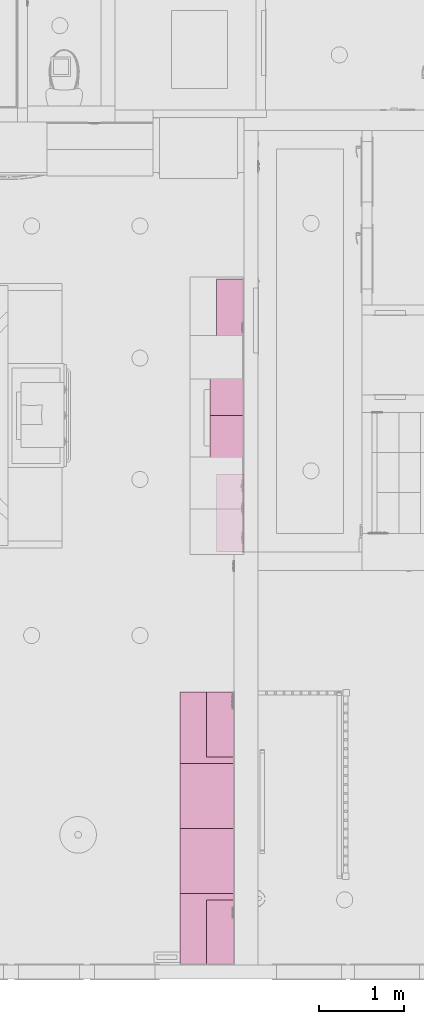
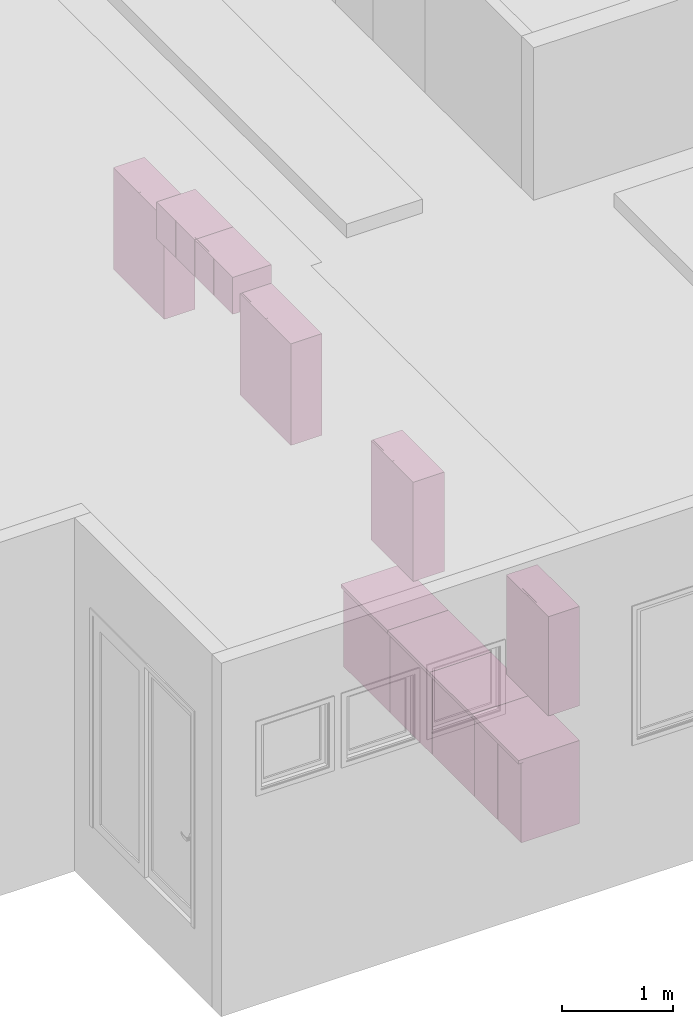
# One storey, part 45 of 103: 10 furnishings.
"""IFC2X3 building model written with IfcOpenShell, lengths in inches."""

import ifcopenshell
import ifcopenshell.guid

model = None  # the IFC model being written
_history = None  # IfcOwnerHistory: only IFC2X3 demands one
_inside = {}  # id of a spatial element -> (the spatial element, [elements in it])
_under = {}  # id of a project, library or spatial element -> (it, [spatial elements below it])
_declared = {}  # id of a project -> (the project, [libraries it declares])
_typed = {}  # id of a type object -> (the type object, [elements of that type])
_made_of = {}  # id of a material, layer set ... -> (it, [elements and type objects made of it])


def new_model(schema):
    """Start an empty IFC model of exactly this schema.

    Asked for "IFC4X3", IfcOpenShell would pick the latest addendum, in which some entities
    have other attributes; the version numbers below select the first issue.
    IFC2X3 requires an IfcOwnerHistory on every rooted entity: one is made here for all.
    """
    global model, _history
    if schema == "IFC4X3":
        model = ifcopenshell.file(schema_version=(4, 3, 0, 0))
    else:
        model = ifcopenshell.file(schema=schema)
    _inside.clear()
    _under.clear()
    _declared.clear()
    _typed.clear()
    _made_of.clear()
    _history = None
    if model.schema == "IFC2X3":
        org = make("IfcOrganization", Name="unknown")
        user = make(
            "IfcPersonAndOrganization",
            ThePerson=make("IfcPerson", FamilyName="unknown"),
            TheOrganization=org,
        )
        app = make(
            "IfcApplication",
            ApplicationDeveloper=org,
            Version="unknown",
            ApplicationFullName="unknown",
            ApplicationIdentifier="unknown",
        )
        _history = make(
            "IfcOwnerHistory",
            OwningUser=user,
            OwningApplication=app,
            ChangeAction="ADDED",
            CreationDate=0,
        )
    return model


def make(cls, **values):
    """One entity of the class cls with the attributes given. An attribute that is None is left unset."""
    return model.create_entity(
        cls, **{name: value for name, value in values.items() if value is not None}
    )


def entity(cls, *values):
    """Any entity or typed value of the class cls, its attributes in the order of the schema. None: left unset."""
    e = model.create_entity(cls)
    for i, value in enumerate(values):
        if value is not None:
            e[i] = value
    return e


def rooted(cls, **values):
    """An entity with a GlobalId (a new one), such as an element, a storey or a relation."""
    return make(cls, GlobalId=ifcopenshell.guid.new(), OwnerHistory=_history, **values)


def si_unit(unit_type, name, prefix=None):
    """IfcSIUnit, for example si_unit("LENGTHUNIT", "METRE", prefix="MILLI")."""
    return make("IfcSIUnit", UnitType=unit_type, Prefix=prefix, Name=name)


def converted_unit(unit_type, name, factor, base, dimensions=None, offset=None):
    """IfcConversionBasedUnit, such as the inch: factor (a typed value) times the base unit."""
    return make(
        "IfcConversionBasedUnit"
        if offset is None
        else "IfcConversionBasedUnitWithOffset",
        ConversionOffset=offset,
        Dimensions=None
        if dimensions is None
        else entity("IfcDimensionalExponents", *dimensions),
        UnitType=unit_type,
        Name=name,
        ConversionFactor=make(
            "IfcMeasureWithUnit", ValueComponent=factor, UnitComponent=base
        ),
    )


def derived_unit(unit_type, elements):
    """IfcDerivedUnit: a product of units, each with its exponent."""
    return make(
        "IfcDerivedUnit",
        Elements=[
            make("IfcDerivedUnitElement", Unit=unit, Exponent=power)
            for unit, power in elements
        ],
        UnitType=unit_type,
    )


def money_unit(currency):
    """IfcMonetaryUnit."""
    return make("IfcMonetaryUnit", Currency=currency)


def assignment(units):
    """IfcUnitAssignment: the units of a project."""
    return None if units is None else make("IfcUnitAssignment", Units=units)


def point(xyz):
    """IfcCartesianPoint."""
    return None if xyz is None else make("IfcCartesianPoint", Coordinates=xyz)


def direction(xyz):
    """IfcDirection."""
    return None if xyz is None else make("IfcDirection", DirectionRatios=xyz)


def frame(location, z_axis=None, x_axis=None):
    """IfcAxis2Placement3D, a coordinate frame: its origin and axes. An axis left out is left unset."""
    return make(
        "IfcAxis2Placement3D",
        Location=point(location),
        Axis=direction(z_axis),
        RefDirection=direction(x_axis),
    )


def origin_with_axes():
    """The frame at (0, 0, 0) with the z axis (0, 0, 1) and the x axis (1, 0, 0) written out."""
    return frame((0.0, 0.0, 0.0), z_axis=(0.0, 0.0, 1.0), x_axis=(1.0, 0.0, 0.0))


def place(relative_to, where):
    """IfcLocalPlacement: puts the frame where relative to a parent placement (None: the world)."""
    return make(
        "IfcLocalPlacement", PlacementRelTo=relative_to, RelativePlacement=where
    )


def context(
    kind, dimensions, precision=None, world=None, true_north=None, identifier=None
):
    """IfcGeometricRepresentationContext, for example the 3D "Model" context."""
    return make(
        "IfcGeometricRepresentationContext",
        ContextIdentifier=identifier,
        ContextType=kind,
        CoordinateSpaceDimension=dimensions,
        Precision=precision,
        WorldCoordinateSystem=world,
        TrueNorth=true_north,
    )


def subcontext(parent, identifier, kind, view, scale=None):
    """IfcGeometricRepresentationSubContext, for example "Body" below "Model"."""
    return make(
        "IfcGeometricRepresentationSubContext",
        ContextIdentifier=identifier,
        ContextType=kind,
        ParentContext=parent,
        TargetScale=scale,
        TargetView=view,
    )


def project(units=None, contexts=None):
    """IfcProject with its units and contexts."""
    return rooted(
        "IfcProject",
        Name="project",
        RepresentationContexts=contexts,
        UnitsInContext=assignment(units),
    )


def spatial(cls, under=None, at=None, **own):
    """A site, building, storey or space (cls), placed at a placement, below another one or the project."""
    s = rooted(cls, ObjectPlacement=at, **own)
    if under is not None:
        _under.setdefault(under.id(), (under, []))[1].append(s)
    return s


def faces_of(points, faces, orient=None, outer=None):
    """IfcFace entities. A face is a list of loops; a loop is a list of indices into points, from 0.

    orient and outer hold one flag for each loop. By default every Orientation is true, the
    first loop of a face is its IfcFaceOuterBound and the others are IfcFaceBound.
    """
    made = []
    for i, loops in enumerate(faces):
        bounds = []
        for j, loop in enumerate(loops):
            is_outer = j == 0 if outer is None else outer[i][j]
            bounds.append(
                make(
                    "IfcFaceOuterBound" if is_outer else "IfcFaceBound",
                    Bound=make("IfcPolyLoop", Polygon=[points[k] for k in loop]),
                    Orientation=True if orient is None else orient[i][j],
                )
            )
        made.append(make("IfcFace", Bounds=bounds))
    return made


def faceted_brep(points, faces, orient=None, outer=None, voids=None):
    """IfcFacetedBrep: a solid bounded by flat faces; with voids (closed shells), ...WithVoids."""
    shared = [point(p) for p in points]
    hull = make("IfcClosedShell", CfsFaces=faces_of(shared, faces, orient, outer))
    if voids is None:
        return make("IfcFacetedBrep", Outer=hull)
    return make(
        "IfcFacetedBrepWithVoids",
        Outer=hull,
        Voids=[
            make(cls, CfsFaces=faces_of(shared, fs, o, b)) for cls, fs, o, b in voids
        ],
    )


def shape(context_of_items, identifier, shape_type, items):
    """IfcShapeRepresentation: the items that make up one representation, for example the "Body"."""
    return make(
        "IfcShapeRepresentation",
        ContextOfItems=context_of_items,
        RepresentationIdentifier=identifier,
        RepresentationType=shape_type,
        Items=items,
    )


def source(mapping_origin, context_of_items, identifier, shape_type, items):
    """IfcRepresentationMap: a shape defined once, which mapped items show again and again."""
    return make(
        "IfcRepresentationMap",
        MappingOrigin=mapping_origin,
        MappedRepresentation=shape(context_of_items, identifier, shape_type, items),
    )


def transform(
    local_origin,
    x_axis=None,
    y_axis=None,
    z_axis=None,
    scale=None,
    scale2=None,
    scale3=None,
    uniform=True,
):
    """IfcCartesianTransformationOperator3D, or its non-uniform kind. x_axis, y_axis, z_axis: its Axis1, 2, 3."""
    if uniform:
        return make(
            "IfcCartesianTransformationOperator3D",
            Axis1=direction(x_axis),
            Axis2=direction(y_axis),
            LocalOrigin=point(local_origin),
            Scale=scale,
            Axis3=direction(z_axis),
        )
    return make(
        "IfcCartesianTransformationOperator3DnonUniform",
        Axis1=direction(x_axis),
        Axis2=direction(y_axis),
        LocalOrigin=point(local_origin),
        Scale=scale,
        Axis3=direction(z_axis),
        Scale2=scale2,
        Scale3=scale3,
    )


def mapped(mapping_source, mapping_target):
    """IfcMappedItem: shows the shape of a source again, moved by a transform."""
    return make(
        "IfcMappedItem", MappingSource=mapping_source, MappingTarget=mapping_target
    )


def made_of(thing, what):
    """Note that an element or type object is made of a material, layer set ...; save() writes the relation."""
    if what is not None:
        _made_of.setdefault(what.id(), (what, []))[1].append(thing)
    return thing


def type_object(cls, material=None, **own):
    """A type object (cls), such as IfcWallType, which elements share."""
    return made_of(rooted(cls, **own), material)


def element(
    cls,
    number,
    at=None,
    inside=None,
    cuts=None,
    type_object=None,
    material=None,
    context=None,
    identifier="Body",
    shape_type=None,
    held_by="IfcProductDefinitionShape",
    body=None,
    shapes=None,
    **own,
):
    """One element of the class cls, such as IfcWall. Its Tag is "e" and its number.

    at: its placement. inside: the storey or other place that contains it. cuts: it is an
    opening in that element (IfcRelVoidsElement). A single representation is given by context,
    identifier, shape_type and body (its items); several are given by shapes. held_by: the class
    of the entity that holds the representations. save() writes the other relations.
    """
    e = rooted(cls, Tag="e%d" % number, ObjectPlacement=at, **own)
    if body is not None:
        shapes = [shape(context, identifier, shape_type, body)]
    if shapes is not None:
        e.Representation = make(held_by, Representations=shapes)
    if inside is not None:
        _inside.setdefault(inside.id(), (inside, []))[1].append(e)
    if cuts is not None:
        rooted(
            "IfcRelVoidsElement", RelatingBuildingElement=cuts, RelatedOpeningElement=e
        )
    if type_object is not None:
        _typed.setdefault(type_object.id(), (type_object, []))[1].append(e)
    return made_of(e, material)


def aggregate(whole, parts):
    """IfcRelAggregates: a whole, such as a stair, and the parts it consists of."""
    return rooted("IfcRelAggregates", RelatingObject=whole, RelatedObjects=parts)


def save(model, path):
    """Write the relations noted so far, then the file.

    IfcRelAggregates (storeys below a building ...), IfcRelContainedInSpatialStructure (elements
    in a storey), IfcRelDefinesByType, IfcRelAssociatesMaterial and IfcRelDeclares: one each for
    every whole, place, type object, material and project.
    """
    for whole, parts in _under.values():
        aggregate(whole, parts)
    for where, things in _inside.values():
        rooted(
            "IfcRelContainedInSpatialStructure",
            RelatedElements=things,
            RelatingStructure=where,
        )
    for kind, things in _typed.values():
        rooted("IfcRelDefinesByType", RelatedObjects=things, RelatingType=kind)
    for what, things in _made_of.values():
        rooted("IfcRelAssociatesMaterial", RelatedObjects=things, RelatingMaterial=what)
    for by, libraries in _declared.values():
        rooted("IfcRelDeclares", RelatingContext=by, RelatedDefinitions=libraries)
    model.write(path)


model = new_model("IFC2X3")

# Units and contexts
model_context = context("Model", 3, precision=0.00039370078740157, world=origin_with_axes(), true_north=direction((0.0, 1.0)))
plan_context = context("Plan", 3, precision=0.00039370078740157, world=origin_with_axes(), true_north=direction((0.0, 1.0)))
body_context = subcontext(model_context, "Body", "Model", "MODEL_VIEW")
ifc_project = project(units=[converted_unit("LENGTHUNIT", "INCH", entity("IfcPositiveLengthMeasure", 0.0254), si_unit("LENGTHUNIT", "METRE"), dimensions=[1, 0, 0, 0, 0, 0, 0]), converted_unit("AREAUNIT", "SQUARE_FOOT", entity("IfcPositiveLengthMeasure", 0.09290304), si_unit("AREAUNIT", "SQUARE_METRE"), dimensions=[2, 0, 0, 0, 0, 0, 0]), si_unit("PLANEANGLEUNIT", "RADIAN"), si_unit("SOLIDANGLEUNIT", "STERADIAN"), money_unit("USD"), converted_unit("TIMEUNIT", "Year", entity("IfcTimeMeasure", 31557600.0), si_unit("TIMEUNIT", "SECOND"), dimensions=[0, 0, 1, 0, 0, 0, 0]), si_unit("MASSUNIT", "GRAM", prefix="KILO"), si_unit("THERMODYNAMICTEMPERATUREUNIT", "DEGREE_CELSIUS"), si_unit("LUMINOUSINTENSITYUNIT", "LUMEN"), si_unit("ENERGYUNIT", "JOULE", prefix="MEGA"), derived_unit("SPECIFICHEATCAPACITYUNIT", [(si_unit("ENERGYUNIT", "JOULE"), 1), (si_unit("MASSUNIT", "GRAM", prefix="KILO"), -1), (si_unit("THERMODYNAMICTEMPERATUREUNIT", "KELVIN"), -1)])], contexts=[model_context, plan_context])

# Site, building, storey
site_placement = place(None, origin_with_axes())
site = spatial("IfcSite", under=ifc_project, at=site_placement, Name="Site", CompositionType="ELEMENT")
building_placement = place(site_placement, origin_with_axes())
building = spatial("IfcBuilding", under=site, at=building_placement, Name="Building", CompositionType="ELEMENT")
storey_placement = place(building_placement, frame((0.0, 0.0, 127.9999999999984), z_axis=(0.0, 0.0, 1.0), x_axis=(1.0, 0.0, 0.0)))
storey = spatial("IfcBuildingStorey", under=building, at=storey_placement, Name="Second Floor", CompositionType="ELEMENT", Elevation=128.0)

# Furnishings
furniture_type_1 = type_object("IfcFurnitureType", Name="Wall Cabinet Block", AssemblyPlace="NOTDEFINED")
shared_shape_1 = source(origin_with_axes(), body_context, "Body", "Brep", [
    faceted_brep([(0.7499999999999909, -14.99999999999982, 67.62499999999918), (26.24999999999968, -14.99999999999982, 67.62499999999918), (26.24999999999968, -14.99999999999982, 68.37499999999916), (0.7499999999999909, -14.99999999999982, 68.37499999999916), (0.7499999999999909, -0.7499999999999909, 67.62499999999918), (26.24999999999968, -0.7499999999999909, 67.62499999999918), (26.24999999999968, -0.7499999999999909, 68.37499999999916), (0.7499999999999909, -0.7499999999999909, 68.37499999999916)], [[[0, 1, 2, 3]], [[0, 4, 5, 1]], [[1, 5, 6, 2]], [[3, 2, 6, 7]], [[4, 0, 3, 7]], [[5, 4, 7, 6]]]),
    faceted_brep([(0.039370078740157, -14.99999999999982, 60.03937007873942), (13.46062992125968, -14.99999999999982, 60.03937007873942), (13.46062992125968, -15.74999999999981, 60.03937007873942), (0.039370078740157, -15.74999999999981, 60.03937007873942), (0.039370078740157, -14.99999999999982, 75.9606299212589), (13.46062992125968, -14.99999999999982, 75.9606299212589), (13.46062992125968, -15.74999999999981, 75.9606299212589), (0.039370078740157, -15.74999999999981, 75.9606299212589)], [[[0, 1, 2, 3]], [[0, 4, 5, 1]], [[1, 5, 6, 2]], [[3, 2, 6, 7]], [[4, 0, 3, 7]], [[5, 4, 7, 6]]]),
    faceted_brep([(26.96062992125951, -14.99999999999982, 60.03937007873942), (26.96062992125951, -15.74999999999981, 60.03937007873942), (13.53937007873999, -15.74999999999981, 60.03937007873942), (13.53937007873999, -14.99999999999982, 60.03937007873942), (26.96062992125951, -14.99999999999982, 75.9606299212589), (26.96062992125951, -15.74999999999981, 75.9606299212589), (13.53937007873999, -15.74999999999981, 75.9606299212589), (13.53937007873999, -14.99999999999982, 75.9606299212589)], [[[0, 1, 2, 3]], [[4, 5, 1, 0]], [[1, 5, 6, 2]], [[3, 2, 6, 7]], [[0, 3, 7, 4]], [[7, 6, 5, 4]]]),
    faceted_brep([(0.7499999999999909, -14.99999999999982, 59.99999999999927), (26.24999999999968, -14.99999999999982, 59.99999999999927), (26.24999999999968, -14.99999999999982, 60.74999999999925), (0.7499999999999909, -14.99999999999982, 60.74999999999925), (0.7499999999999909, 0.0, 59.99999999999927), (26.24999999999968, 0.0, 59.99999999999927), (26.24999999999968, 0.0, 60.74999999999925), (0.7499999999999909, 0.0, 60.74999999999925)], [[[0, 1, 2, 3]], [[0, 4, 5, 1]], [[1, 5, 6, 2]], [[3, 2, 6, 7]], [[4, 0, 3, 7]], [[5, 4, 7, 6]]]),
    faceted_brep([(0.7499999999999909, -14.99999999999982, 75.24999999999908), (26.24999999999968, -14.99999999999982, 75.24999999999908), (26.24999999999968, -14.99999999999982, 75.99999999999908), (0.7499999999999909, -14.99999999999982, 75.99999999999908), (0.7499999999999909, 0.0, 75.24999999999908), (26.24999999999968, 0.0, 75.24999999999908), (26.24999999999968, 0.0, 75.99999999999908), (0.7499999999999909, 0.0, 75.99999999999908)], [[[0, 1, 2, 3]], [[0, 4, 5, 1]], [[1, 5, 6, 2]], [[3, 2, 6, 7]], [[4, 0, 3, 7]], [[5, 4, 7, 6]]]),
    faceted_brep([(0.0, 0.0, 59.99999999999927), (0.0, -14.99999999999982, 59.99999999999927), (0.0, -14.99999999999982, 75.99999999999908), (0.0, 0.0, 75.99999999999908), (0.7499999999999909, 0.0, 59.99999999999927), (0.7499999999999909, -14.99999999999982, 59.99999999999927), (0.7499999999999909, -14.99999999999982, 75.99999999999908), (0.7499999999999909, 0.0, 75.99999999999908)], [[[0, 1, 2, 3]], [[0, 4, 5, 1]], [[1, 5, 6, 2]], [[3, 2, 6, 7]], [[4, 0, 3, 7]], [[5, 4, 7, 6]]]),
    faceted_brep([(26.99999999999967, -14.99999999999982, 59.99999999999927), (26.99999999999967, 0.0, 59.99999999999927), (26.99999999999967, 0.0, 75.99999999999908), (26.99999999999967, -14.99999999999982, 75.99999999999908), (26.24999999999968, -14.99999999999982, 59.99999999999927), (26.24999999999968, 0.0, 59.99999999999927), (26.24999999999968, 0.0, 75.99999999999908), (26.24999999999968, -14.99999999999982, 75.99999999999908)], [[[0, 1, 2, 3]], [[0, 4, 5, 1]], [[1, 5, 6, 2]], [[3, 2, 6, 7]], [[4, 0, 3, 7]], [[5, 4, 7, 6]]]),
    faceted_brep([(26.24999999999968, -0.3749999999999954, 60.74999999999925), (0.7499999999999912, -0.3749999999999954, 60.74999999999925), (0.7499999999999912, -0.3749999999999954, 75.24999999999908), (26.24999999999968, -0.3749999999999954, 75.24999999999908), (26.24999999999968, -0.7499999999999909, 60.74999999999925), (0.7499999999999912, -0.7499999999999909, 60.74999999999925), (0.7499999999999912, -0.7499999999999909, 75.24999999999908), (26.24999999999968, -0.7499999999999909, 75.24999999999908)], [[[0, 1, 2, 3]], [[0, 4, 5, 1]], [[1, 5, 6, 2]], [[3, 2, 6, 7]], [[4, 0, 3, 7]], [[5, 4, 7, 6]]]),
])
for number, where, z_axis, x_axis, name in (
    (1, (154.9996920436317, 287.000712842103, 26.99999999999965), (0.0, 0.0, 1.0), (2.019381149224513e-06, -0.9999999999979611, 0.0), "OBJ-21"),
    (2, (154.9997465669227, 260.0007128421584, 26.99999999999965), (0.0, 0.0, 1.0), (2.019381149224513e-06, -0.9999999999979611, 0.0), "OBJ-21"),
):
    element("IfcFurnishingElement", number, at=place(storey_placement, frame(where, z_axis=z_axis, x_axis=x_axis)), inside=storey, type_object=furniture_type_1, Name=name, context=body_context, shape_type="MappedRepresentation", body=[
        mapped(shared_shape_1, transform((0.0, 0.0, 0.0))),
    ])
furniture_type_2 = type_object("IfcFurnitureType", Name="Base Cabinet Block", AssemblyPlace="NOTDEFINED")
shared_shape_2 = source(origin_with_axes(), body_context, "Body", "Brep", [
    faceted_brep([(0.0, -24.9999999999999, 34.49999999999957), (32.99999999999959, -24.9999999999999, 34.49999999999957), (32.99999999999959, -24.9999999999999, 35.99999999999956), (0.0, -24.9999999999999, 35.99999999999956), (0.0, 0.0, 34.49999999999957), (32.99999999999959, 0.0, 34.49999999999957), (32.99999999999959, 0.0, 35.99999999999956), (0.0, 0.0, 35.99999999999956)], [[[0, 1, 2, 3]], [[0, 4, 5, 1]], [[1, 5, 6, 2]], [[3, 2, 6, 7]], [[4, 0, 3, 7]], [[5, 4, 7, 6]]]),
    faceted_brep([(0.039370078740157, -23.24999999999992, 0.039370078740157), (16.46062992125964, -23.24999999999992, 0.039370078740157), (16.46062992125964, -23.99999999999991, 0.03937007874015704), (0.039370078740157, -23.99999999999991, 0.03937007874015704), (0.039370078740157, -23.24999999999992, 34.46062992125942), (16.46062992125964, -23.24999999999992, 34.46062992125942), (16.46062992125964, -23.9999999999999, 34.46062992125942), (0.039370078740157, -23.9999999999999, 34.46062992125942)], [[[0, 1, 2, 3]], [[0, 4, 5, 1]], [[1, 5, 6, 2]], [[3, 2, 6, 7]], [[4, 0, 3, 7]], [[5, 4, 7, 6]]]),
    faceted_brep([(32.96062992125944, -23.24999999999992, 0.03937007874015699), (32.96062992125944, -23.99999999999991, 0.03937007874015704), (16.53937007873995, -23.99999999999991, 0.03937007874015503), (16.53937007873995, -23.24999999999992, 0.03937007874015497), (32.96062992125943, -23.24999999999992, 34.46062992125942), (32.96062992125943, -23.9999999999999, 34.46062992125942), (16.53937007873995, -23.9999999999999, 34.46062992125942), (16.53937007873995, -23.24999999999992, 34.46062992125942)], [[[0, 1, 2, 3]], [[4, 5, 1, 0]], [[1, 5, 6, 2]], [[3, 2, 6, 7]], [[0, 3, 7, 4]], [[7, 6, 5, 4]]]),
    faceted_brep([(0.7499999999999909, -23.24999999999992, 0.0), (32.2499999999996, -23.24999999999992, 0.0), (32.2499999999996, -23.24999999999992, 0.7499999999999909), (0.7499999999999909, -23.24999999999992, 0.7499999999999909), (0.7499999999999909, 0.0, 0.0), (32.2499999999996, 0.0, 0.0), (32.2499999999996, 0.0, 0.7499999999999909), (0.7499999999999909, 0.0, 0.7499999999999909)], [[[0, 1, 2, 3]], [[0, 4, 5, 1]], [[1, 5, 6, 2]], [[3, 2, 6, 7]], [[4, 0, 3, 7]], [[5, 4, 7, 6]]]),
    faceted_brep([(0.7499999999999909, -23.24999999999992, 33.74999999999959), (0.7499999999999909, -20.8877952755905, 33.74999999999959), (32.2499999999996, -20.8877952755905, 33.74999999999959), (32.2499999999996, -23.24999999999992, 33.74999999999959), (0.7499999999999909, -23.24999999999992, 34.49999999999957), (0.7499999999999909, -20.8877952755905, 34.49999999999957), (32.2499999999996, -20.8877952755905, 34.49999999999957), (32.2499999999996, -23.24999999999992, 34.49999999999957)], [[[0, 1, 2, 3]], [[0, 4, 5, 1]], [[1, 5, 6, 2]], [[3, 2, 6, 7]], [[4, 0, 3, 7]], [[5, 4, 7, 6]]]),
    faceted_brep([(32.2499999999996, 0.0, 33.74999999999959), (32.2499999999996, -2.36220472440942, 33.74999999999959), (0.7499999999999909, -2.36220472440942, 33.74999999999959), (0.7499999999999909, 0.0, 33.74999999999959), (32.2499999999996, 0.0, 34.49999999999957), (32.2499999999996, -2.36220472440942, 34.49999999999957), (0.7499999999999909, -2.36220472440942, 34.49999999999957), (0.7499999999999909, 0.0, 34.49999999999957)], [[[0, 1, 2, 3]], [[0, 4, 5, 1]], [[1, 5, 6, 2]], [[3, 2, 6, 7]], [[4, 0, 3, 7]], [[5, 4, 7, 6]]]),
    faceted_brep([(0.0, 0.0, 0.0), (0.0, -23.24999999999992, 0.0), (0.0, -23.24999999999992, 34.49999999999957), (0.0, 0.0, 34.49999999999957), (0.7499999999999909, 0.0, 0.0), (0.7499999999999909, -23.24999999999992, 0.0), (0.7499999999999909, -23.24999999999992, 34.49999999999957), (0.7499999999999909, 0.0, 34.49999999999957)], [[[0, 1, 2, 3]], [[0, 4, 5, 1]], [[1, 5, 6, 2]], [[3, 2, 6, 7]], [[4, 0, 3, 7]], [[5, 4, 7, 6]]]),
    faceted_brep([(32.99999999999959, -23.24999999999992, 0.0), (32.99999999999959, 0.0, 0.0), (32.99999999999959, 0.0, 34.49999999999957), (32.99999999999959, -23.24999999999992, 34.49999999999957), (32.2499999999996, -23.24999999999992, 0.0), (32.2499999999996, 0.0, 0.0), (32.2499999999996, 0.0, 34.49999999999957), (32.2499999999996, -23.24999999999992, 34.49999999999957)], [[[0, 1, 2, 3]], [[0, 4, 5, 1]], [[1, 5, 6, 2]], [[3, 2, 6, 7]], [[4, 0, 3, 7]], [[5, 4, 7, 6]]]),
    faceted_brep([(32.2499999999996, -0.3749999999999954, 0.7499999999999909), (0.7499999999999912, -0.3749999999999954, 0.7499999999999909), (0.7499999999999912, -0.3749999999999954, 33.74999999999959), (32.2499999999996, -0.3749999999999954, 33.74999999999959), (32.2499999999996, -0.7499999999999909, 0.7499999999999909), (0.7499999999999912, -0.7499999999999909, 0.7499999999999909), (0.7499999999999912, -0.7499999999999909, 33.74999999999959), (32.2499999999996, -0.7499999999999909, 33.74999999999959)], [[[0, 1, 2, 3]], [[0, 4, 5, 1]], [[1, 5, 6, 2]], [[3, 2, 6, 7]], [[4, 0, 3, 7]], [[5, 4, 7, 6]]]),
])
for number, where, z_axis, x_axis, name in (
    (3, (150.4997455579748, 132.4999999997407, 0.0), (0.0, 0.0, 1.0), (2.019381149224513e-06, -0.9999999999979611, 0.0), "OBJ-16"),
    (4, (150.4999333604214, 39.4999999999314, 0.0), (0.0, 0.0, 1.0), (2.019381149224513e-06, -0.9999999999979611, 0.0), "OBJ-16"),
):
    element("IfcFurnishingElement", number, at=place(storey_placement, frame(where, z_axis=z_axis, x_axis=x_axis)), inside=storey, type_object=furniture_type_2, Name=name, context=body_context, shape_type="MappedRepresentation", body=[
        mapped(shared_shape_2, transform((0.0, 0.0, 0.0))),
    ])
shared_shape_3 = source(origin_with_axes(), body_context, "Body", "Brep", [
    faceted_brep([(0.0, -24.99999999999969, 34.49999999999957), (29.99999999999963, -24.99999999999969, 34.49999999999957), (29.99999999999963, -24.99999999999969, 35.99999999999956), (0.0, -24.99999999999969, 35.99999999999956), (0.0, 0.0, 34.49999999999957), (29.99999999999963, 0.0, 34.49999999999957), (29.99999999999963, 0.0, 35.99999999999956), (0.0, 0.0, 35.99999999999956)], [[[0, 1, 2, 3]], [[0, 4, 5, 1]], [[1, 5, 6, 2]], [[3, 2, 6, 7]], [[4, 0, 3, 7]], [[5, 4, 7, 6]]]),
    faceted_brep([(0.039370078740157, -23.24999999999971, 0.039370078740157), (14.96062992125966, -23.24999999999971, 0.039370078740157), (14.96062992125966, -23.9999999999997, 0.03937007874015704), (0.039370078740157, -23.9999999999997, 0.03937007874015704), (0.039370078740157, -23.24999999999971, 34.46062992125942), (14.96062992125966, -23.24999999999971, 34.46062992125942), (14.96062992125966, -23.9999999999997, 34.46062992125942), (0.039370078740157, -23.9999999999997, 34.46062992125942)], [[[0, 1, 2, 3]], [[0, 4, 5, 1]], [[1, 5, 6, 2]], [[3, 2, 6, 7]], [[4, 0, 3, 7]], [[5, 4, 7, 6]]]),
    faceted_brep([(29.96062992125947, -23.24999999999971, 0.03937007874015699), (29.96062992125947, -23.9999999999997, 0.03937007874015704), (15.03937007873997, -23.9999999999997, 0.0393700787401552), (15.03937007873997, -23.24999999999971, 0.03937007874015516), (29.96062992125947, -23.24999999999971, 34.46062992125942), (29.96062992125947, -23.9999999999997, 34.46062992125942), (15.03937007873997, -23.9999999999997, 34.46062992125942), (15.03937007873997, -23.24999999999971, 34.46062992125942)], [[[0, 1, 2, 3]], [[4, 5, 1, 0]], [[1, 5, 6, 2]], [[3, 2, 6, 7]], [[0, 3, 7, 4]], [[7, 6, 5, 4]]]),
    faceted_brep([(0.7499999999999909, -23.24999999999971, 0.0), (29.24999999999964, -23.24999999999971, 0.0), (29.24999999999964, -23.24999999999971, 0.7499999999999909), (0.7499999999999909, -23.24999999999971, 0.7499999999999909), (0.7499999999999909, 0.0, 0.0), (29.24999999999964, 0.0, 0.0), (29.24999999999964, 0.0, 0.7499999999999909), (0.7499999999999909, 0.0, 0.7499999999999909)], [[[0, 1, 2, 3]], [[0, 4, 5, 1]], [[1, 5, 6, 2]], [[3, 2, 6, 7]], [[4, 0, 3, 7]], [[5, 4, 7, 6]]]),
    faceted_brep([(0.7499999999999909, -23.24999999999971, 33.74999999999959), (0.7499999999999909, -20.88779527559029, 33.74999999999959), (29.24999999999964, -20.88779527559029, 33.74999999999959), (29.24999999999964, -23.24999999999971, 33.74999999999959), (0.7499999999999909, -23.24999999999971, 34.49999999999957), (0.7499999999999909, -20.88779527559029, 34.49999999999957), (29.24999999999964, -20.88779527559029, 34.49999999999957), (29.24999999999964, -23.24999999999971, 34.49999999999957)], [[[0, 1, 2, 3]], [[0, 4, 5, 1]], [[1, 5, 6, 2]], [[3, 2, 6, 7]], [[4, 0, 3, 7]], [[5, 4, 7, 6]]]),
    faceted_brep([(29.24999999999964, 0.0, 33.74999999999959), (29.24999999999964, -2.36220472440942, 33.74999999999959), (0.7499999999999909, -2.36220472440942, 33.74999999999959), (0.7499999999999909, 0.0, 33.74999999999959), (29.24999999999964, 0.0, 34.49999999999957), (29.24999999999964, -2.36220472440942, 34.49999999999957), (0.7499999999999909, -2.36220472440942, 34.49999999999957), (0.7499999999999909, 0.0, 34.49999999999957)], [[[0, 1, 2, 3]], [[0, 4, 5, 1]], [[1, 5, 6, 2]], [[3, 2, 6, 7]], [[4, 0, 3, 7]], [[5, 4, 7, 6]]]),
    faceted_brep([(0.0, 0.0, 0.0), (0.0, -23.24999999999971, 0.0), (0.0, -23.24999999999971, 34.49999999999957), (0.0, 0.0, 34.49999999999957), (0.7499999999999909, 0.0, 0.0), (0.7499999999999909, -23.24999999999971, 0.0), (0.7499999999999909, -23.24999999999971, 34.49999999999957), (0.7499999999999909, 0.0, 34.49999999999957)], [[[0, 1, 2, 3]], [[0, 4, 5, 1]], [[1, 5, 6, 2]], [[3, 2, 6, 7]], [[4, 0, 3, 7]], [[5, 4, 7, 6]]]),
    faceted_brep([(29.99999999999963, -23.24999999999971, 0.0), (29.99999999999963, 0.0, 0.0), (29.99999999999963, 0.0, 34.49999999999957), (29.99999999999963, -23.24999999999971, 34.49999999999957), (29.24999999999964, -23.24999999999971, 0.0), (29.24999999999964, 0.0, 0.0), (29.24999999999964, 0.0, 34.49999999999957), (29.24999999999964, -23.24999999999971, 34.49999999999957)], [[[0, 1, 2, 3]], [[0, 4, 5, 1]], [[1, 5, 6, 2]], [[3, 2, 6, 7]], [[4, 0, 3, 7]], [[5, 4, 7, 6]]]),
    faceted_brep([(29.24999999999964, -0.3749999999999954, 0.7499999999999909), (0.7499999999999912, -0.3749999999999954, 0.7499999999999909), (0.7499999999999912, -0.3749999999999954, 33.74999999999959), (29.24999999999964, -0.3749999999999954, 33.74999999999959), (29.24999999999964, -0.7499999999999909, 0.7499999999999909), (0.7499999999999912, -0.7499999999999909, 0.7499999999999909), (0.7499999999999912, -0.7499999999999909, 33.74999999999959), (29.24999999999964, -0.7499999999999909, 33.74999999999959)], [[[0, 1, 2, 3]], [[0, 4, 5, 1]], [[1, 5, 6, 2]], [[3, 2, 6, 7]], [[4, 0, 3, 7]], [[5, 4, 7, 6]]]),
])
for number, where, z_axis, x_axis, name in (
    (5, (150.4998727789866, 69.49999999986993, 0.0), (0.0, 0.0, 1.0), (2.019381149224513e-06, -0.9999999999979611, 0.0), "OBJ-16"),
    (6, (150.4998121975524, 99.49999999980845, 0.0), (0.0, 0.0, 1.0), (2.019381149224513e-06, -0.9999999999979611, 0.0), "OBJ-16"),
):
    element("IfcFurnishingElement", number, at=place(storey_placement, frame(where, z_axis=z_axis, x_axis=x_axis)), inside=storey, type_object=furniture_type_2, Name=name, context=body_context, shape_type="MappedRepresentation", body=[
        mapped(shared_shape_3, transform((0.0, 0.0, 0.0))),
    ])
shared_shape_4 = source(origin_with_axes(), body_context, "Body", "Brep", [
    faceted_brep([(0.7499999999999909, -11.99999999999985, 81.62499999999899), (35.24999999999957, -11.99999999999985, 81.62499999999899), (35.24999999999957, -11.99999999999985, 82.37499999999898), (0.7499999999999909, -11.99999999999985, 82.37499999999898), (0.7499999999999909, -0.7499999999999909, 81.62499999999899), (35.24999999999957, -0.7499999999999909, 81.62499999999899), (35.24999999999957, -0.7499999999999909, 82.37499999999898), (0.7499999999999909, -0.7499999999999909, 82.37499999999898)], [[[0, 1, 2, 3]], [[0, 4, 5, 1]], [[1, 5, 6, 2]], [[3, 2, 6, 7]], [[4, 0, 3, 7]], [[5, 4, 7, 6]]]),
    faceted_brep([(0.039370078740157, -11.99999999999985, 60.03937007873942), (17.96062992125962, -11.99999999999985, 60.03937007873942), (17.96062992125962, -12.74999999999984, 60.03937007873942), (0.039370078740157, -12.74999999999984, 60.03937007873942), (0.039370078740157, -11.99999999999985, 103.9606299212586), (17.96062992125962, -11.99999999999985, 103.9606299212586), (17.96062992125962, -12.74999999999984, 103.9606299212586), (0.039370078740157, -12.74999999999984, 103.9606299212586)], [[[0, 1, 2, 3]], [[0, 4, 5, 1]], [[1, 5, 6, 2]], [[3, 2, 6, 7]], [[4, 0, 3, 7]], [[5, 4, 7, 6]]]),
    faceted_brep([(35.9606299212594, -11.99999999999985, 60.03937007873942), (35.9606299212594, -12.74999999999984, 60.03937007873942), (18.03937007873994, -12.74999999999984, 60.03937007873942), (18.03937007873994, -11.99999999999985, 60.03937007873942), (35.9606299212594, -11.99999999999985, 103.9606299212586), (35.9606299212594, -12.74999999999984, 103.9606299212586), (18.03937007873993, -12.74999999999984, 103.9606299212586), (18.03937007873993, -11.99999999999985, 103.9606299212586)], [[[0, 1, 2, 3]], [[4, 5, 1, 0]], [[1, 5, 6, 2]], [[3, 2, 6, 7]], [[0, 3, 7, 4]], [[7, 6, 5, 4]]]),
    faceted_brep([(0.7499999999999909, -11.99999999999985, 59.99999999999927), (35.24999999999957, -11.99999999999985, 59.99999999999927), (35.24999999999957, -11.99999999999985, 60.74999999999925), (0.7499999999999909, -11.99999999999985, 60.74999999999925), (0.7499999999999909, 0.0, 59.99999999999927), (35.24999999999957, 0.0, 59.99999999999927), (35.24999999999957, 0.0, 60.74999999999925), (0.7499999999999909, 0.0, 60.74999999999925)], [[[0, 1, 2, 3]], [[0, 4, 5, 1]], [[1, 5, 6, 2]], [[3, 2, 6, 7]], [[4, 0, 3, 7]], [[5, 4, 7, 6]]]),
    faceted_brep([(0.7499999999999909, -11.99999999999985, 103.2499999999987), (35.24999999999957, -11.99999999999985, 103.2499999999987), (35.24999999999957, -11.99999999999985, 103.9999999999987), (0.7499999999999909, -11.99999999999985, 103.9999999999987), (0.7499999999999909, 0.0, 103.2499999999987), (35.24999999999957, 0.0, 103.2499999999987), (35.24999999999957, 0.0, 103.9999999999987), (0.7499999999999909, 0.0, 103.9999999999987)], [[[0, 1, 2, 3]], [[0, 4, 5, 1]], [[1, 5, 6, 2]], [[3, 2, 6, 7]], [[4, 0, 3, 7]], [[5, 4, 7, 6]]]),
    faceted_brep([(0.0, 0.0, 59.99999999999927), (0.0, -11.99999999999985, 59.99999999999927), (0.0, -11.99999999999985, 103.9999999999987), (0.0, 0.0, 103.9999999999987), (0.7499999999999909, 0.0, 59.99999999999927), (0.7499999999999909, -11.99999999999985, 59.99999999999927), (0.7499999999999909, -11.99999999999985, 103.9999999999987), (0.7499999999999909, 0.0, 103.9999999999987)], [[[0, 1, 2, 3]], [[0, 4, 5, 1]], [[1, 5, 6, 2]], [[3, 2, 6, 7]], [[4, 0, 3, 7]], [[5, 4, 7, 6]]]),
    faceted_brep([(35.99999999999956, -11.99999999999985, 59.99999999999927), (35.99999999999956, 0.0, 59.99999999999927), (35.99999999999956, 0.0, 103.9999999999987), (35.99999999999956, -11.99999999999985, 103.9999999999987), (35.24999999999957, -11.99999999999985, 59.99999999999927), (35.24999999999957, 0.0, 59.99999999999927), (35.24999999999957, 0.0, 103.9999999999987), (35.24999999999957, -11.99999999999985, 103.9999999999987)], [[[0, 1, 2, 3]], [[0, 4, 5, 1]], [[1, 5, 6, 2]], [[3, 2, 6, 7]], [[4, 0, 3, 7]], [[5, 4, 7, 6]]]),
    faceted_brep([(35.24999999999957, -0.3749999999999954, 60.74999999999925), (0.7499999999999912, -0.3749999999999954, 60.74999999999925), (0.7499999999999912, -0.3749999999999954, 103.2499999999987), (35.24999999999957, -0.3749999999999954, 103.2499999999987), (35.24999999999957, -0.7499999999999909, 60.74999999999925), (0.7499999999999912, -0.7499999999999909, 60.74999999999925), (0.7499999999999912, -0.7499999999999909, 103.2499999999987), (35.24999999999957, -0.7499999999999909, 103.2499999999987)], [[[0, 1, 2, 3]], [[0, 4, 5, 1]], [[1, 5, 6, 2]], [[3, 2, 6, 7]], [[4, 0, 3, 7]], [[5, 4, 7, 6]]]),
])
for number, where, z_axis, x_axis, name in (
    (7, (154.9996193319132, 323.0076442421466, -8.999999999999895), (0.0, 0.0, 1.0), (2.019381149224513e-06, -0.9999999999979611, 0.0), "OBJ-21"),
    (8, (154.9998010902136, 233.0007128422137, -8.999999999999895), (0.0, 0.0, 1.0), (2.019381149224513e-06, -0.9999999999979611, 0.0), "OBJ-21"),
):
    element("IfcFurnishingElement", number, at=place(storey_placement, frame(where, z_axis=z_axis, x_axis=x_axis)), inside=storey, type_object=furniture_type_1, Name=name, context=body_context, shape_type="MappedRepresentation", body=[
        mapped(shared_shape_4, transform((0.0, 0.0, 0.0))),
    ])
shared_shape_5 = source(origin_with_axes(), body_context, "Body", "Brep", [
    faceted_brep([(0.7499999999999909, -11.99999999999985, 81.124999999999), (29.24999999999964, -11.99999999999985, 81.124999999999), (29.24999999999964, -11.99999999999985, 81.874999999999), (0.7499999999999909, -11.99999999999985, 81.874999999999), (0.7499999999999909, -0.7499999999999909, 81.124999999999), (29.24999999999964, -0.7499999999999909, 81.124999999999), (29.24999999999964, -0.7499999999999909, 81.874999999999), (0.7499999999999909, -0.7499999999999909, 81.874999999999)], [[[0, 1, 2, 3]], [[0, 4, 5, 1]], [[1, 5, 6, 2]], [[3, 2, 6, 7]], [[4, 0, 3, 7]], [[5, 4, 7, 6]]]),
    faceted_brep([(0.039370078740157, -11.99999999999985, 60.03937007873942), (14.96062992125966, -11.99999999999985, 60.03937007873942), (14.96062992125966, -12.74999999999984, 60.03937007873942), (0.039370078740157, -12.74999999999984, 60.03937007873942), (0.039370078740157, -11.99999999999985, 102.9606299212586), (14.96062992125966, -11.99999999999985, 102.9606299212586), (14.96062992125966, -12.74999999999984, 102.9606299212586), (0.039370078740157, -12.74999999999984, 102.9606299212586)], [[[0, 1, 2, 3]], [[0, 4, 5, 1]], [[1, 5, 6, 2]], [[3, 2, 6, 7]], [[4, 0, 3, 7]], [[5, 4, 7, 6]]]),
    faceted_brep([(29.96062992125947, -11.99999999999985, 60.03937007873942), (29.96062992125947, -12.74999999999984, 60.03937007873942), (15.03937007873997, -12.74999999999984, 60.03937007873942), (15.03937007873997, -11.99999999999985, 60.03937007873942), (29.96062992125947, -11.99999999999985, 102.9606299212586), (29.96062992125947, -12.74999999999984, 102.9606299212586), (15.03937007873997, -12.74999999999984, 102.9606299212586), (15.03937007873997, -11.99999999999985, 102.9606299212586)], [[[0, 1, 2, 3]], [[4, 5, 1, 0]], [[1, 5, 6, 2]], [[3, 2, 6, 7]], [[0, 3, 7, 4]], [[7, 6, 5, 4]]]),
    faceted_brep([(0.7499999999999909, -11.99999999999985, 59.99999999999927), (29.24999999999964, -11.99999999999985, 59.99999999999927), (29.24999999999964, -11.99999999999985, 60.74999999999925), (0.7499999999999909, -11.99999999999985, 60.74999999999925), (0.7499999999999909, 0.0, 59.99999999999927), (29.24999999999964, 0.0, 59.99999999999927), (29.24999999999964, 0.0, 60.74999999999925), (0.7499999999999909, 0.0, 60.74999999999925)], [[[0, 1, 2, 3]], [[0, 4, 5, 1]], [[1, 5, 6, 2]], [[3, 2, 6, 7]], [[4, 0, 3, 7]], [[5, 4, 7, 6]]]),
    faceted_brep([(0.7499999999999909, -11.99999999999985, 102.2499999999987), (29.24999999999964, -11.99999999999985, 102.2499999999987), (29.24999999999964, -11.99999999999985, 102.9999999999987), (0.7499999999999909, -11.99999999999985, 102.9999999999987), (0.7499999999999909, 0.0, 102.2499999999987), (29.24999999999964, 0.0, 102.2499999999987), (29.24999999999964, 0.0, 102.9999999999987), (0.7499999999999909, 0.0, 102.9999999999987)], [[[0, 1, 2, 3]], [[0, 4, 5, 1]], [[1, 5, 6, 2]], [[3, 2, 6, 7]], [[4, 0, 3, 7]], [[5, 4, 7, 6]]]),
    faceted_brep([(0.0, 0.0, 59.99999999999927), (0.0, -11.99999999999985, 59.99999999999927), (0.0, -11.99999999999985, 102.9999999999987), (0.0, 0.0, 102.9999999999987), (0.7499999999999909, 0.0, 59.99999999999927), (0.7499999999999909, -11.99999999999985, 59.99999999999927), (0.7499999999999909, -11.99999999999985, 102.9999999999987), (0.7499999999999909, 0.0, 102.9999999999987)], [[[0, 1, 2, 3]], [[0, 4, 5, 1]], [[1, 5, 6, 2]], [[3, 2, 6, 7]], [[4, 0, 3, 7]], [[5, 4, 7, 6]]]),
    faceted_brep([(29.99999999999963, -11.99999999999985, 59.99999999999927), (29.99999999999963, 0.0, 59.99999999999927), (29.99999999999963, 0.0, 102.9999999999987), (29.99999999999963, -11.99999999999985, 102.9999999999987), (29.24999999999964, -11.99999999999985, 59.99999999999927), (29.24999999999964, 0.0, 59.99999999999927), (29.24999999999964, 0.0, 102.9999999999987), (29.24999999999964, -11.99999999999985, 102.9999999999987)], [[[0, 1, 2, 3]], [[0, 4, 5, 1]], [[1, 5, 6, 2]], [[3, 2, 6, 7]], [[4, 0, 3, 7]], [[5, 4, 7, 6]]]),
    faceted_brep([(29.24999999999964, -0.3749999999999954, 60.74999999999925), (0.7499999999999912, -0.3749999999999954, 60.74999999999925), (0.7499999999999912, -0.3749999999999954, 102.2499999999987), (29.24999999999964, -0.3749999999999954, 102.2499999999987), (29.24999999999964, -0.7499999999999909, 60.74999999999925), (0.7499999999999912, -0.7499999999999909, 60.74999999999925), (0.7499999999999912, -0.7499999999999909, 102.2499999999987), (29.24999999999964, -0.7499999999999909, 102.2499999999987)], [[[0, 1, 2, 3]], [[0, 4, 5, 1]], [[1, 5, 6, 2]], [[3, 2, 6, 7]], [[4, 0, 3, 7]], [[5, 4, 7, 6]]]),
])
for number, where, z_axis, x_axis, name in (
    (9, (150.4997455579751, 132.4999996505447, -8.999999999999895), (0.0, 0.0, 1.0), (2.019381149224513e-06, -0.9999999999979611, 0.0), "OBJ-21"),
    (10, (150.4999394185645, 36.49999999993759, -8.999999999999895), (0.0, 0.0, 1.0), (2.019381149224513e-06, -0.9999999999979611, 0.0), "OBJ-21"),
):
    element("IfcFurnishingElement", number, at=place(storey_placement, frame(where, z_axis=z_axis, x_axis=x_axis)), inside=storey, type_object=furniture_type_1, Name=name, context=body_context, shape_type="MappedRepresentation", body=[
        mapped(shared_shape_5, transform((0.0, 0.0, 0.0))),
    ])

save(model, "model.ifc")
